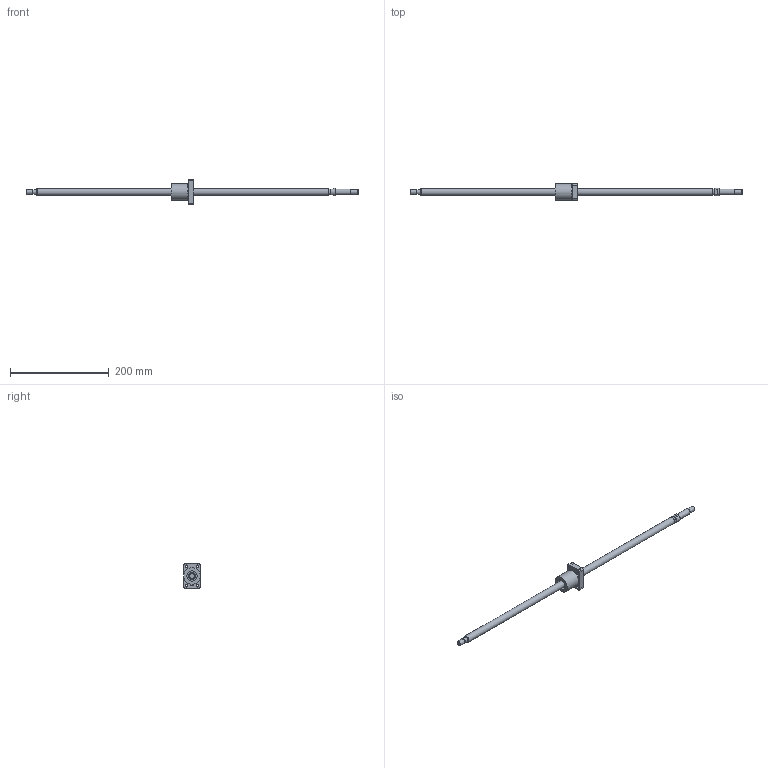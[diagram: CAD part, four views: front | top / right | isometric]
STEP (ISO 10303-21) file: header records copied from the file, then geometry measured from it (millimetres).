
FILE_DESCRIPTION(/* description */ ('STEP AP203'),/* implementation_level */ '2;1');
FILE_NAME(/* name */ 'BNK1408-2.5RRG0+671LC5Y(317.50)',/* time_stamp */ '2024-07-09T09:17:48+02:00',/* author */ ('License CC BY-ND 4.0'),/* organization */ ('CADENAS'),/* preprocessor_version */ 'ST-DEVELOPER v19.3',/* originating_system */ 'PARTsolutions',/* authorisation */ ' ');
FILE_SCHEMA (('CONFIG_CONTROL_DESIGN'));
Length unit declared in the file: millimetre
Products named in the file (3): BNK1408-2.5RRG0+671LC5Y(317.50); BNK 1408-2.5RRG0+671LC5Y Shaft; BNK 1408-2.5RRG0+671LC5YRR0 Nut
Assembly tree (2 placements, depth 2):
  BNK1408-2.5RRG0+671LC5Y(317.50)
    BNK 1408-2.5RRG0+671LC5Y Shaft
    BNK 1408-2.5RRG0+671LC5YRR0 Nut
Bounding box: 671 x 34 x 50 mm (x, y, z)
Volume: 137882.1 mm3; surface area: 41158.4 mm2
Topology: 2 solids, 2 shells, 74 faces, 159 edges, 102 vertices
Faces by surface type: plane 28, cylinder 27, cone 17, torus 2
Full cylindrical faces by diameter (mm): 4.917 x2, 5.5 x4, 9.5 x4, 9.6 x1, 10 x3, 12 x2, 14 x2, 15 x1, 21 x2, 33.4 x1, 34 x1
Entity records: 1940 total; most frequent: CARTESIAN_POINT 349, DIRECTION 336, ORIENTED_EDGE 242, AXIS2_PLACEMENT_3D 155, FACE_BOUND 134, EDGE_LOOP 133, EDGE_CURVE 121, VERTEX_POINT 99
